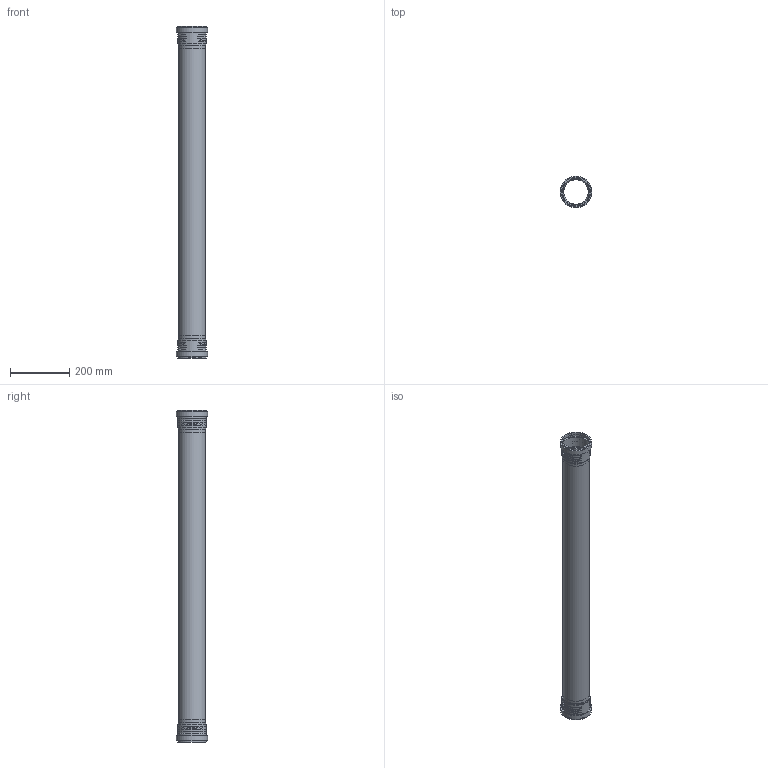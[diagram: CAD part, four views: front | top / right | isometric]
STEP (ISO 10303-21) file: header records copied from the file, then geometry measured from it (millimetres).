
FILE_DESCRIPTION(/* description */ (''),/* implementation_level */ '2;1');
FILE_NAME(/* name */ 'Z:\Geberit\Export\NewStep\Rohr2Muffen_Iassembly\stp\390411.stp',/* time_stamp */ '2014-04-03T17:50:15+02:00',/* author */ ('ML'),/* organization */ (''),/* preprocessor_version */ 'ST-DEVELOPER v15.2',/* originating_system */ 'Autodesk Inventor 2014',/* authorisation */ '');
FILE_SCHEMA (('AUTOMOTIVE_DESIGN { 1 0 10303 214 3 1 1 }'));
Length unit declared in the file: millimetre
Products named in the file (3): 861546; 861584ohne; 390411
Bounding box: 105.4 x 105.4 x 1122 mm (x, y, z)
Volume: 1000714.8 mm3; surface area: 651909.4 mm2
Topology: 3 solids, 3 shells, 88 faces, 198 edges, 136 vertices
Faces by surface type: torus 48, cylinder 20, plane 18, cone 2
Full cylindrical faces by diameter (mm): 84 x3, 90.2 x3, 91 x4, 94.1 x2, 97.2 x4, 99.2 x2, 105.4 x2
Entity records: 1990 total; most frequent: CARTESIAN_POINT 960, DIRECTION 180, ORIENTED_EDGE 172, AXIS2_PLACEMENT_3D 90, EDGE_CURVE 86, EDGE_LOOP 76, VERTEX_POINT 70, B_SPLINE_CURVE_WITH_KNOTS 48
